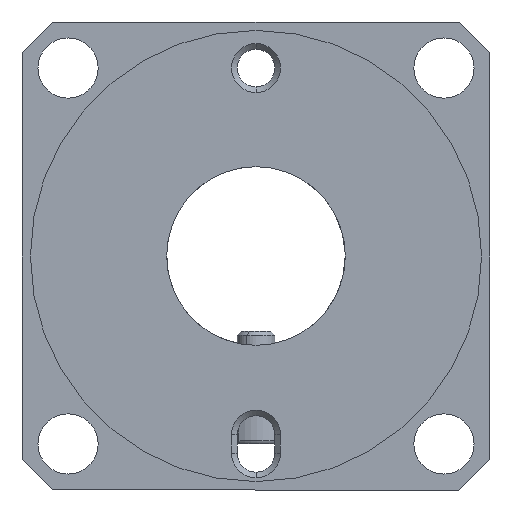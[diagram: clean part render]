
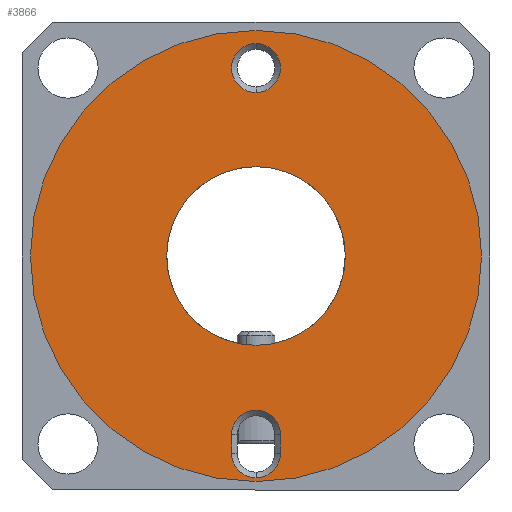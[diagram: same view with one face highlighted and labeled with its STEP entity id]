
A CAD part, front view. The second image highlights one B-rep face of the part: STEP entity #3866.
In plain terms, the highlighted planar face has unit normal (0, -1, 0).
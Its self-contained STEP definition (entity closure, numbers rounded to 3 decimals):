
#354 = PLANE ( 'NONE',  #690 ) ;
#548 = CARTESIAN_POINT ( 'NONE',  ( 1.3, -2., -10.5 ) ) ;
#690 = AXIS2_PLACEMENT_3D ( 'NONE', #9058, #13335, #4649 ) ;
#794 = VERTEX_POINT ( 'NONE', #8523 ) ;
#1260 = VERTEX_POINT ( 'NONE', #13810 ) ;
#1803 = CIRCLE ( 'NONE', #9694, 12. ) ;
#1874 = CIRCLE ( 'NONE', #9766, 4.75 ) ;
#2279 = ORIENTED_EDGE ( 'NONE', *, *, #9708, .T. ) ;
#2424 = CIRCLE ( 'NONE', #10341, 12. ) ;
#2494 = EDGE_CURVE ( 'NONE', #9281, #12966, #6004, .T. ) ;
#2848 = ORIENTED_EDGE ( 'NONE', *, *, #4819, .T. ) ;
#3196 = CARTESIAN_POINT ( 'NONE',  ( 0., -2., -12. ) ) ;
#3211 = EDGE_CURVE ( 'NONE', #4831, #5933, #6039, .T. ) ;
#3262 = CARTESIAN_POINT ( 'NONE',  ( 0., -2., 0. ) ) ;
#3383 = EDGE_CURVE ( 'NONE', #5025, #11401, #2424, .T. ) ;
#3426 = VERTEX_POINT ( 'NONE', #10907 ) ;
#3442 = CARTESIAN_POINT ( 'NONE',  ( 0., -2., 11.3 ) ) ;
#3517 = AXIS2_PLACEMENT_3D ( 'NONE', #10388, #6134, #13606 ) ;
#3659 = DIRECTION ( 'NONE',  ( 0., 1., 0. ) ) ;
#3728 = LINE ( 'NONE', #3795, #4969 ) ;
#3795 = CARTESIAN_POINT ( 'NONE',  ( -1.3, -2., -9.5 ) ) ;
#3866 = ADVANCED_FACE ( 'NONE', ( #11101, #13402, #11377, #6999 ), #354, .F. ) ;
#4053 = CIRCLE ( 'NONE', #13288, 1.3 ) ;
#4215 = CARTESIAN_POINT ( 'NONE',  ( 0., -2., -9.5 ) ) ;
#4232 = EDGE_CURVE ( 'NONE', #7455, #9281, #7230, .T. ) ;
#4334 = ORIENTED_EDGE ( 'NONE', *, *, #12324, .F. ) ;
#4649 = DIRECTION ( 'NONE',  ( 0., 0., 1. ) ) ;
#4733 = AXIS2_PLACEMENT_3D ( 'NONE', #8406, #11491, #8258 ) ;
#4815 = EDGE_CURVE ( 'NONE', #3426, #11356, #1874, .T. ) ;
#4819 = EDGE_CURVE ( 'NONE', #1260, #7455, #6361, .T. ) ;
#4831 = VERTEX_POINT ( 'NONE', #3442 ) ;
#4969 = VECTOR ( 'NONE', #5924, 1000. ) ;
#5025 = VERTEX_POINT ( 'NONE', #5842 ) ;
#5141 = CARTESIAN_POINT ( 'NONE',  ( 0., -2., 0. ) ) ;
#5386 = ORIENTED_EDGE ( 'NONE', *, *, #12838, .T. ) ;
#5549 = ORIENTED_EDGE ( 'NONE', *, *, #2494, .T. ) ;
#5725 = AXIS2_PLACEMENT_3D ( 'NONE', #8602, #7734, #13083 ) ;
#5819 = CARTESIAN_POINT ( 'NONE',  ( 0., -2., 10. ) ) ;
#5842 = CARTESIAN_POINT ( 'NONE',  ( 0., -2., 12. ) ) ;
#5923 = DIRECTION ( 'NONE',  ( 0., 0., 1. ) ) ;
#5924 = DIRECTION ( 'NONE',  ( 0., 0., 1. ) ) ;
#5933 = VERTEX_POINT ( 'NONE', #10170 ) ;
#6004 = CIRCLE ( 'NONE', #8952, 1.3 ) ;
#6039 = CIRCLE ( 'NONE', #11458, 1.3 ) ;
#6134 = DIRECTION ( 'NONE',  ( 0., 1., 0. ) ) ;
#6282 = DIRECTION ( 'NONE',  ( 0., 1., 0. ) ) ;
#6361 = LINE ( 'NONE', #10676, #12012 ) ;
#6556 = DIRECTION ( 'NONE',  ( 0., 0., -1. ) ) ;
#6890 = DIRECTION ( 'NONE',  ( 0., 0., -1. ) ) ;
#6999 = FACE_BOUND ( 'NONE', #11195, .T. ) ;
#7230 = CIRCLE ( 'NONE', #4733, 1.3 ) ;
#7455 = VERTEX_POINT ( 'NONE', #548 ) ;
#7536 = CARTESIAN_POINT ( 'NONE',  ( -1.3, -2., -10.5 ) ) ;
#7691 = EDGE_CURVE ( 'NONE', #5933, #4831, #11823, .T. ) ;
#7734 = DIRECTION ( 'NONE',  ( 0., 1., 0. ) ) ;
#7779 = ORIENTED_EDGE ( 'NONE', *, *, #3211, .T. ) ;
#7954 = DIRECTION ( 'NONE',  ( 0., 1., 0. ) ) ;
#7981 = CARTESIAN_POINT ( 'NONE',  ( 0., -2., -10.5 ) ) ;
#8258 = DIRECTION ( 'NONE',  ( 0., 0., 1. ) ) ;
#8406 = CARTESIAN_POINT ( 'NONE',  ( 0., -2., -10.5 ) ) ;
#8420 = ORIENTED_EDGE ( 'NONE', *, *, #3383, .F. ) ;
#8523 = CARTESIAN_POINT ( 'NONE',  ( -1.3, -2., -9.5 ) ) ;
#8602 = CARTESIAN_POINT ( 'NONE',  ( 0., -2., 10. ) ) ;
#8928 = DIRECTION ( 'NONE',  ( 0., 1., 0. ) ) ;
#8952 = AXIS2_PLACEMENT_3D ( 'NONE', #7981, #3659, #5923 ) ;
#9058 = CARTESIAN_POINT ( 'NONE',  ( 0., -2., 0. ) ) ;
#9091 = CARTESIAN_POINT ( 'NONE',  ( 0., -2., 0. ) ) ;
#9281 = VERTEX_POINT ( 'NONE', #11318 ) ;
#9296 = DIRECTION ( 'NONE',  ( 0., 0., 1. ) ) ;
#9497 = CARTESIAN_POINT ( 'NONE',  ( 0., -2., 4.75 ) ) ;
#9694 = AXIS2_PLACEMENT_3D ( 'NONE', #9091, #7954, #6890 ) ;
#9708 = EDGE_CURVE ( 'NONE', #11356, #3426, #13206, .T. ) ;
#9766 = AXIS2_PLACEMENT_3D ( 'NONE', #5141, #6282, #10603 ) ;
#10170 = CARTESIAN_POINT ( 'NONE',  ( 0., -2., 8.7 ) ) ;
#10341 = AXIS2_PLACEMENT_3D ( 'NONE', #3262, #8928, #13137 ) ;
#10388 = CARTESIAN_POINT ( 'NONE',  ( 0., -2., 0. ) ) ;
#10454 = ORIENTED_EDGE ( 'NONE', *, *, #11762, .T. ) ;
#10465 = DIRECTION ( 'NONE',  ( 0., 0., 1. ) ) ;
#10603 = DIRECTION ( 'NONE',  ( 0., 0., 1. ) ) ;
#10635 = ORIENTED_EDGE ( 'NONE', *, *, #4232, .T. ) ;
#10676 = CARTESIAN_POINT ( 'NONE',  ( 1.3, -2., -10.5 ) ) ;
#10907 = CARTESIAN_POINT ( 'NONE',  ( 0., -2., -4.75 ) ) ;
#11101 = FACE_BOUND ( 'NONE', #12384, .T. ) ;
#11195 = EDGE_LOOP ( 'NONE', ( #12827, #2279 ) ) ;
#11318 = CARTESIAN_POINT ( 'NONE',  ( 0., -2., -11.8 ) ) ;
#11356 = VERTEX_POINT ( 'NONE', #9497 ) ;
#11377 = FACE_OUTER_BOUND ( 'NONE', #13496, .T. ) ;
#11401 = VERTEX_POINT ( 'NONE', #3196 ) ;
#11439 = DIRECTION ( 'NONE',  ( 0., 1., 0. ) ) ;
#11458 = AXIS2_PLACEMENT_3D ( 'NONE', #5819, #12315, #9296 ) ;
#11491 = DIRECTION ( 'NONE',  ( 0., 1., 0. ) ) ;
#11762 = EDGE_CURVE ( 'NONE', #794, #1260, #4053, .T. ) ;
#11823 = CIRCLE ( 'NONE', #5725, 1.3 ) ;
#11945 = ORIENTED_EDGE ( 'NONE', *, *, #7691, .T. ) ;
#12012 = VECTOR ( 'NONE', #6556, 1000. ) ;
#12152 = EDGE_LOOP ( 'NONE', ( #2848, #10635, #5549, #5386, #10454 ) ) ;
#12315 = DIRECTION ( 'NONE',  ( 0., 1., 0. ) ) ;
#12324 = EDGE_CURVE ( 'NONE', #11401, #5025, #1803, .T. ) ;
#12384 = EDGE_LOOP ( 'NONE', ( #11945, #7779 ) ) ;
#12827 = ORIENTED_EDGE ( 'NONE', *, *, #4815, .T. ) ;
#12838 = EDGE_CURVE ( 'NONE', #12966, #794, #3728, .T. ) ;
#12966 = VERTEX_POINT ( 'NONE', #7536 ) ;
#13083 = DIRECTION ( 'NONE',  ( 0., 0., 1. ) ) ;
#13137 = DIRECTION ( 'NONE',  ( 0., 0., -1. ) ) ;
#13206 = CIRCLE ( 'NONE', #3517, 4.75 ) ;
#13288 = AXIS2_PLACEMENT_3D ( 'NONE', #4215, #11439, #10465 ) ;
#13335 = DIRECTION ( 'NONE',  ( 0., 1., 0. ) ) ;
#13402 = FACE_BOUND ( 'NONE', #12152, .T. ) ;
#13496 = EDGE_LOOP ( 'NONE', ( #4334, #8420 ) ) ;
#13606 = DIRECTION ( 'NONE',  ( 0., 0., 1. ) ) ;
#13810 = CARTESIAN_POINT ( 'NONE',  ( 1.3, -2., -9.5 ) ) ;
